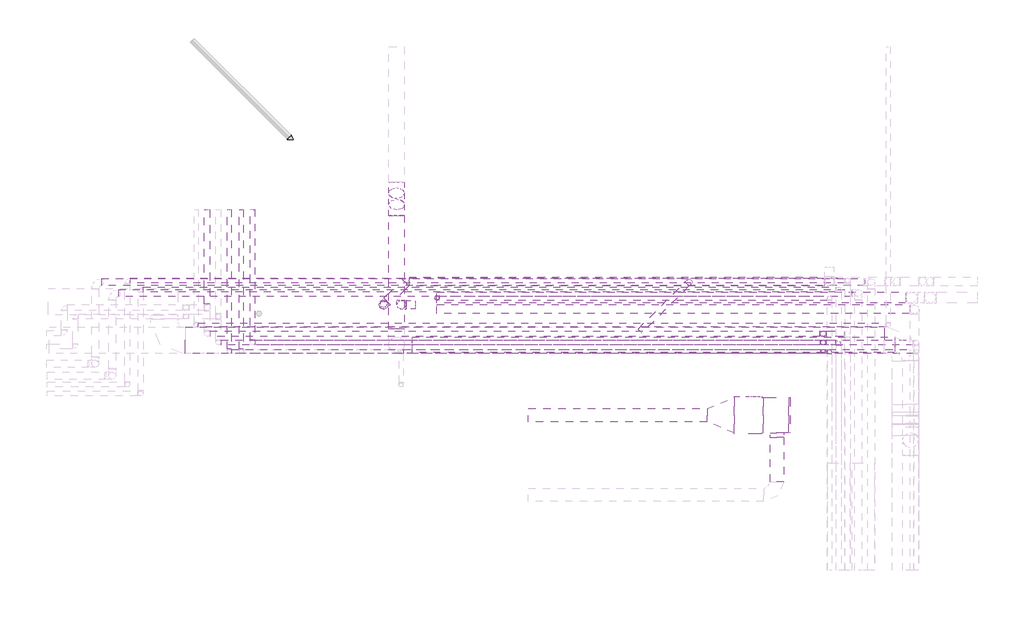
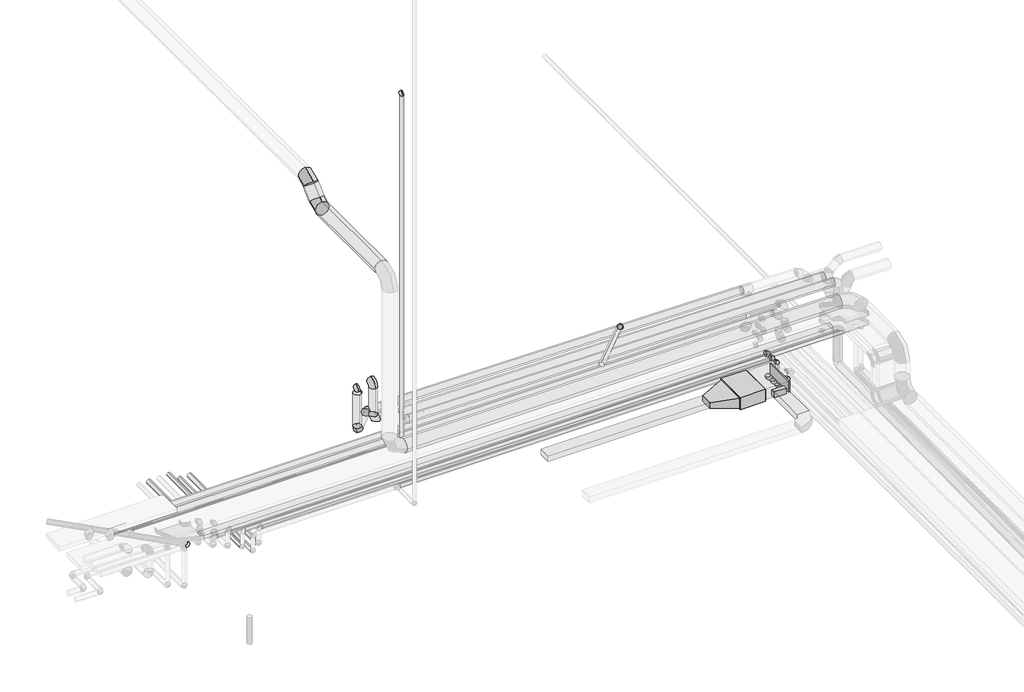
# One storey, part 11 of 12: 30 pipe segments, 17 pipe fittings, 6 duct segments, 5 duct fittings, 1 cable carrier segment, 1 proxy.
"""IFC4 building model written with IfcOpenShell, lengths in millimetres."""

from ifc_helpers import new_model, si_unit, point, frame, frame_2d, origin, place, context, project, spatial, polyline, circle_curve, trimmed, segment, composite_curve, outline, extrude, transform, mapped, element, save
from components import fc01_db58e849, duct_fitting_83e7c145, ext_22d5d12d, m_codo_redondo_ext_1_d_13bc036d, m_remate_rectangular_ext_55e19840, pipe_fitting_8e92d537, pipe_fitting_eb148d84, pipe_fitting_b37f0415, pipe_fitting_fa3f9604, pipe_fitting_87aeffad, pipe_fitting_e0fa64fe, pipe_fitting_c30e2c37, pipe_fitting_73698d31, pipe_fitting_ce1e9cd7, pipe_fitting_cd3c4448, pipe_fitting_4378a78c, pipe_fitting_4b8aae89, pipe_fitting_885b0a43, pipe_fitting_c73de51f, pipe_fitting_ae7840fb

model = new_model("IFC4")

# Units and contexts
model_context = context("Model", 3, world=origin())
ifc_project = project(units=[si_unit("LENGTHUNIT", "METRE", prefix="MILLI")], contexts=[model_context])

# Site, building, storey
site = spatial("IfcSite", under=ifc_project)
building = spatial("IfcBuilding", under=site)
storey = spatial("IfcBuildingStorey", under=building, Name="Nivell -01 PS1_PK", Elevation=1850.0)

# Proxy
placement = place(None, origin())
fc01_shape = fc01_db58e849(model_context)
element("IfcBuildingElementProxy", 1, Name="ARC_MDL_ME_UI_FC_ConducteSostre : FC01", ObjectType="ARC_MDL_ME_UI_FC_ConducteSostre : FC01", at=placement, inside=storey, context=model_context, shape_type="MappedRepresentation", body=[
    mapped(fc01_shape, transform((29819.1880978, 1603.247044, 5350.0), x_axis=(0.0, -1.0, 0.0), y_axis=(1.0, 0.0, 0.0), z_axis=(0.0, 0.0, 1.0))),
])

# Cable carrier segment
element("IfcCableCarrierSegment", 2, ObjectType="EL", at=placement, inside=storey, context=model_context, shape_type="SweptSolid", body=[
    extrude(outline(polyline([(32892.3537516, 3597.0810479), (32892.3543741, 2997.0810479), (17144.9827092, 2997.0647098), (17144.9820867, 3597.0647098), (32892.3537516, 3597.0810479)])), frame((0.0, 0.0, 5150.0), z_axis=(0.0, 0.0, 1.0), x_axis=(1.0, 0.0, 0.0)), (0.0, 0.0, 1.0), 100.0),
])

# Duct fittings
duct_fitting_shape = duct_fitting_83e7c145(model_context)
element("IfcDuctFitting", 3, ObjectType="M_Transición rectangular - Ángulo : EXT_45 graus", at=placement, inside=storey, context=model_context, shape_type="MappedRepresentation", body=[
    mapped(duct_fitting_shape, transform((29504.1880978, 1603.247044, 5507.5), x_axis=(-1.0, 0.0, 0.0), y_axis=(0.0, -1.0, 0.0), z_axis=(0.0, 0.0, 1.0))),
])
ext_shape = ext_22d5d12d(model_context)
element("IfcDuctFitting", 4, ObjectType="M_Toma de derivación rectangular : EXT", at=placement, inside=storey, context=model_context, shape_type="MappedRepresentation", body=[
    mapped(ext_shape, transform((30468.4719354, 1203.247044, 5507.5), x_axis=(0.0, -1.0, 0.0), y_axis=(-1.0, 0.0, 0.0), z_axis=(0.0, 0.0, -1.0))),
])
m_codo_redondo_ext_1_d_shape = m_codo_redondo_ext_1_d_13bc036d(model_context)
element("IfcDuctFitting", 5, ObjectType="M_Codo redondo : EXT_1 D", at=placement, inside=storey, context=model_context, shape_type="MappedRepresentation", body=[
    mapped(m_codo_redondo_ext_1_d_shape, transform((21901.1871418, 6708.4040569, 10810.0), x_axis=(0.0, -1.0, 0.0), y_axis=(0.0, 0.0, -1.0), z_axis=(1.0, 0.0, 0.0))),
])
element("IfcDuctFitting", 6, ObjectType="M_Codo redondo : EXT_1 D", at=placement, inside=storey, context=model_context, shape_type="MappedRepresentation", body=[
    mapped(m_codo_redondo_ext_1_d_shape, transform((21901.1871418, 6248.4040569, 10350.0), x_axis=(0.0, -0.7071067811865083, -0.7071067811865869), y_axis=(0.0, -0.7071067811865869, 0.7071067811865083), z_axis=(-1.0, 0.0, 0.0))),
])
m_remate_rectangular_ext_shape = m_remate_rectangular_ext_55e19840(model_context)
element("IfcDuctFitting", 7, ObjectType="M_Remate rectangular : EXT", at=placement, inside=storey, context=model_context, shape_type="MappedRepresentation", body=[
    mapped(m_remate_rectangular_ext_shape, transform((30741.1880978, 1603.247044, 5507.5), x_axis=(1.0, 0.0, 0.0), y_axis=(0.0, 1.0, 0.0), z_axis=(0.0, 0.0, 1.0))),
])

# Duct segments
element("IfcDuctSegment", 8, ObjectType="EXT_Acer Galvanitzat - Rígid", at=placement, inside=storey, context=model_context, shape_type="SweptSolid", body=[
    extrude(outline(composite_curve([segment(trimmed(circle_curve(frame_2d((3192.4040569, 5730.0)), 175.0), [point((3367.4040569, 5730.0))], [point((3192.4040569, 5555.0))], False, "CARTESIAN"), True, "CONTINUOUS"), segment(trimmed(circle_curve(frame_2d((3192.4040569, 5730.0)), 175.0), [point((3192.4040569, 5555.0))], [point((3017.4040569, 5730.0))], False, "CARTESIAN"), True, "CONTINUOUS"), segment(trimmed(circle_curve(frame_2d((3192.4040569, 5730.0)), 175.0), [point((3017.4040569, 5730.0))], [point((3192.4040569, 5905.0))], False, "CARTESIAN"), True, "CONTINUOUS"), segment(trimmed(circle_curve(frame_2d((3192.4040569, 5730.0)), 175.0), [point((3192.4040569, 5905.0))], [point((3367.4040569, 5730.0))], False, "CARTESIAN"), True, "CONTINUOUS")], self_intersect=False)), frame((22251.1871418, 0.0, 0.0), z_axis=(1.0, 0.0, 0.0), x_axis=(0.0, 1.0, 0.0)), (0.0, 0.0, 1.0), 10877.8174593),
])
element("IfcDuctSegment", 9, ObjectType="EXT_Acer Galvanitzat - Rígid", at=placement, inside=storey, context=model_context, shape_type="SweptSolid", body=[
    extrude(outline(composite_curve([segment(trimmed(circle_curve(frame_2d((0.0, -175.0)), 175.0), [point((-175.0, -175.0))], [point((0.0, 0.0))], False, "CARTESIAN"), True, "CONTINUOUS"), segment(trimmed(circle_curve(frame_2d((0.0, -175.0)), 175.0), [point((0.0, 0.0))], [point((175.0, -175.0))], False, "CARTESIAN"), True, "CONTINUOUS"), segment(trimmed(circle_curve(frame_2d((0.0, -175.0)), 175.0), [point((175.0, -175.0))], [point((0.0, -350.0))], False, "CARTESIAN"), True, "CONTINUOUS"), segment(trimmed(circle_curve(frame_2d((0.0, -175.0)), 175.0), [point((0.0, -350.0))], [point((-175.0, -175.0))], False, "CARTESIAN"), True, "CONTINUOUS")], self_intersect=False)), frame((21901.1871418, 6474.6603702, 10328.7689399), z_axis=(0.0, 0.707106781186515, 0.70710678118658), x_axis=(1.0, 0.0, 0.0)), (0.0, 0.0, 1.0), 360.588745),
])
element("IfcDuctSegment", 10, ObjectType="EXT_Acer Galvanitzat - Rígid", at=placement, inside=storey, context=model_context, shape_type="SweptSolid", body=[
    extrude(outline(composite_curve([segment(trimmed(circle_curve(frame_2d((10350.0, 21901.1871418)), 175.0), [point((10350.0, 22076.1871418))], [point((10525.0, 21901.1871418))], False, "CARTESIAN"), True, "CONTINUOUS"), segment(trimmed(circle_curve(frame_2d((10350.0, 21901.1871418)), 175.0), [point((10525.0, 21901.1871418))], [point((10350.0, 21726.1871418))], False, "CARTESIAN"), True, "CONTINUOUS"), segment(trimmed(circle_curve(frame_2d((10350.0, 21901.1871418)), 175.0), [point((10350.0, 21726.1871418))], [point((10175.0, 21901.1871418))], False, "CARTESIAN"), True, "CONTINUOUS"), segment(trimmed(circle_curve(frame_2d((10350.0, 21901.1871418)), 175.0), [point((10175.0, 21901.1871418))], [point((10350.0, 22076.1871418))], False, "CARTESIAN"), True, "CONTINUOUS")], self_intersect=False)), frame((0.0, 3542.4040569, 0.0), z_axis=(0.0, 1.0, 0.0), x_axis=(0.0, 0.0, 1.0)), (0.0, 0.0, 1.0), 2561.0252532),
])
element("IfcDuctSegment", 11, ObjectType="EXT_Planxa galvanitzada", at=placement, inside=storey, context=model_context, shape_type="SweptSolid", body=[
    extrude(outline(polyline([(28900.6347072, 1753.247044), (28900.6347072, 1453.247044), (24868.4719354, 1453.247044), (24868.4719354, 1753.247044), (28900.6347072, 1753.247044)])), frame((0.0, 0.0, 5432.5), z_axis=(0.0, 0.0, 1.0), x_axis=(1.0, 0.0, 0.0)), (0.0, 0.0, 1.0), 150.0),
])
element("IfcDuctSegment", 12, ObjectType="EXT_Planxa galvanitzada", at=placement, inside=storey, context=model_context, shape_type="SweptSolid", body=[
    extrude(outline(polyline([(30161.1880978, 1203.247044), (30161.1880978, 2003.247044), (30741.1880978, 2003.247044), (30741.1880978, 1203.247044), (30161.1880978, 1203.247044)])), frame((0.0, 0.0, 5370.0), z_axis=(0.0, 0.0, 1.0), x_axis=(1.0, 0.0, 0.0)), (0.0, 0.0, 1.0), 275.0),
])
element("IfcDuctSegment", 13, ObjectType="EXT_Planxa galvanitzada", at=placement, inside=storey, context=model_context, shape_type="SweptSolid", body=[
    extrude(outline(polyline([(30318.4719354, 1101.647044), (30618.4719354, 1101.647044), (30618.4719354, 105.7761719), (30318.4719354, 105.7761719), (30318.4719354, 1101.647044)])), frame((0.0, 0.0, 5432.5), z_axis=(0.0, 0.0, 1.0), x_axis=(1.0, 0.0, 0.0)), (0.0, 0.0, 1.0), 150.0),
])

# Pipe fittings
pipe_fitting_shape = pipe_fitting_8e92d537(model_context)
element("IfcPipeFitting", 14, ObjectType="M_Codo - Genérico : Estándar", at=placement, inside=storey, context=model_context, shape_type="MappedRepresentation", body=[
    mapped(pipe_fitting_shape, transform((28494.7143591, 4609.0124523, 5863.6031921), x_axis=(0.0, 0.0, 1.0), y_axis=(-0.7072825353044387, -0.7069309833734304, 0.0), z_axis=(0.7069309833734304, -0.7072825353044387, 0.0))),
])
pipe_fitting_2_shape = pipe_fitting_eb148d84(model_context)
element("IfcPipeFitting", 15, ObjectType="M_Codo - Genérico : Estándar", at=placement, inside=storey, context=model_context, shape_type="MappedRepresentation", body=[
    mapped(pipe_fitting_2_shape, transform((22012.4640122, 4093.1380917, 5977.8978029), x_axis=(-0.9999500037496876, 0.0, 0.009999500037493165), y_axis=(0.009999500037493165, 0.0, 0.9999500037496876), z_axis=(0.0, 1.0, 0.0))),
])
pipe_fitting_3_shape = pipe_fitting_b37f0415(model_context)
element("IfcPipeFitting", 16, ObjectType="M_Codo - Genérico : Estándar", at=placement, inside=storey, context=model_context, shape_type="MappedRepresentation", body=[
    mapped(pipe_fitting_3_shape, transform((22012.4640122, 4093.1380917, 6927.8978029), x_axis=(0.0, 0.0, 1.0), y_axis=(0.0, 1.0, 0.0), z_axis=(-1.0, 0.0, 0.0))),
])
pipe_fitting_4_shape = pipe_fitting_fa3f9604(model_context)
element("IfcPipeFitting", 17, ObjectType="M_Codo - Genérico : Estándar", at=placement, inside=storey, context=model_context, shape_type="MappedRepresentation", body=[
    mapped(pipe_fitting_4_shape, transform((31511.7618049, 3241.4395612, 4795.0), x_axis=(0.0, 0.0, 1.0), y_axis=(-1.0, 0.0, 0.0), z_axis=(0.0, -1.0, 0.0))),
])
pipe_fitting_5_shape = pipe_fitting_87aeffad(model_context)
element("IfcPipeFitting", 18, ObjectType="M_Codo - Genérico : Estándar", at=placement, inside=storey, context=model_context, shape_type="MappedRepresentation", body=[
    mapped(pipe_fitting_5_shape, transform((22814.9203808, 4244.3728734, 14209.2), x_axis=(0.0, 0.0, 1.0), y_axis=(0.0, 1.0, 0.0), z_axis=(-1.0, 0.0, 0.0))),
])
element("IfcPipeFitting", 19, ObjectType="M_Codo - Genérico : Estándar", at=placement, inside=storey, context=model_context, shape_type="MappedRepresentation", body=[
    mapped(pipe_fitting_5_shape, transform((31511.7618049, 3041.4395612, 4805.0), x_axis=(0.0, 0.0, 1.0), y_axis=(-1.0, 0.0, 0.0), z_axis=(0.0, -1.0, 0.0))),
])
pipe_fitting_6_shape = pipe_fitting_e0fa64fe(model_context)
element("IfcPipeFitting", 20, ObjectType="M_Codo - Genérico : Estándar", at=placement, inside=storey, context=model_context, shape_type="MappedRepresentation", body=[
    mapped(pipe_fitting_6_shape, transform((31511.7618049, 3441.4395612, 4787.5), x_axis=(0.0, 0.0, 1.0), y_axis=(-1.0, 0.0, 0.0), z_axis=(0.0, -1.0, 0.0))),
])
element("IfcPipeFitting", 21, ObjectType="M_Codo - Genérico : Estándar", at=placement, inside=storey, context=model_context, shape_type="MappedRepresentation", body=[
    mapped(pipe_fitting_6_shape, transform((21612.4226846, 4093.1794174, 6927.8978029), x_axis=(0.0, 0.0, 1.0), y_axis=(0.0, 1.0, 0.0), z_axis=(-1.0, 0.0, 0.0))),
])
pipe_fitting_7_shape = pipe_fitting_c30e2c37(model_context)
element("IfcPipeFitting", 22, ObjectType="M_Codo - Genérico : Estándar", at=placement, inside=storey, context=model_context, shape_type="MappedRepresentation", body=[
    mapped(pipe_fitting_7_shape, transform((19509.4431427, 7847.2061584, 1253.3089467), x_axis=(0.0, 0.9999500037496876, 0.009999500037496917), y_axis=(-0.9999914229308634, -4.141539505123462e-05, 0.0041415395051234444), z_axis=(0.004141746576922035, -0.009999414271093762, 0.9999414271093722))),
])
pipe_fitting_8_shape = pipe_fitting_73698d31(model_context)
element("IfcPipeFitting", 23, ObjectType="M_Transición - Genérica : Estándar", at=placement, inside=storey, context=model_context, shape_type="MappedRepresentation", body=[
    mapped(pipe_fitting_8_shape, transform((21612.4226846, 4093.1794174, 6804.8665529), x_axis=(0.0, 0.0, 1.0), y_axis=(-0.7071244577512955, 0.7070891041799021, 0.0), z_axis=(-0.7070891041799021, -0.7071244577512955, 0.0))),
])
pipe_fitting_9_shape = pipe_fitting_ce1e9cd7(model_context)
element("IfcPipeFitting", 24, ObjectType="M_Codo - Genérico : Estándar", at=placement, inside=storey, context=model_context, shape_type="MappedRepresentation", body=[
    mapped(pipe_fitting_9_shape, transform((31660.0107148, 3041.4395612, 4134.476125), x_axis=(0.0, 0.9999999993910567, -3.489823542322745e-05), y_axis=(-0.9999500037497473, -3.4896490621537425e-07, -0.009999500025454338), z_axis=(-0.009999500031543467, 3.489649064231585e-05, 0.9999500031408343))),
])
pipe_fitting_10_shape = pipe_fitting_cd3c4448(model_context)
element("IfcPipeFitting", 25, ObjectType="M_Codo - Genérico : Estándar", at=placement, inside=storey, context=model_context, shape_type="MappedRepresentation", body=[
    mapped(pipe_fitting_10_shape, transform((31860.0107148, 3241.4395612, 4124.370625), x_axis=(0.0, 0.999999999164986, -4.086597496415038e-05), y_axis=(-0.9999500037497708, -4.0863931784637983e-07, -0.009999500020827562), z_axis=(-0.009999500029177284, 4.086393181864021e-05, 0.9999500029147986))),
])
pipe_fitting_11_shape = pipe_fitting_4378a78c(model_context)
element("IfcPipeFitting", 26, ObjectType="M_Codo - Genérico : Estándar", at=placement, inside=storey, context=model_context, shape_type="MappedRepresentation", body=[
    mapped(pipe_fitting_11_shape, transform((31511.7618049, 3041.4395612, 4132.9936359), x_axis=(0.0, 0.0, -1.0), y_axis=(1.0, 0.0, 0.0), z_axis=(0.0, -1.0, 0.0))),
])
pipe_fitting_12_shape = pipe_fitting_4b8aae89(model_context)
element("IfcPipeFitting", 27, ObjectType="M_Codo - Genérico : Estándar", at=placement, inside=storey, context=model_context, shape_type="MappedRepresentation", body=[
    mapped(pipe_fitting_12_shape, transform((31511.7618049, 3241.4395612, 4120.8881359), x_axis=(0.0, 0.0, -1.0), y_axis=(1.0, 0.0, 0.0), z_axis=(0.0, -1.0, 0.0))),
])
pipe_fitting_13_shape = pipe_fitting_885b0a43(model_context)
element("IfcPipeFitting", 28, ObjectType="M_Codo - Genérico : Estándar", at=placement, inside=storey, context=model_context, shape_type="MappedRepresentation", body=[
    mapped(pipe_fitting_13_shape, transform((31511.7618049, 3441.4395612, 4111.3031359), x_axis=(0.0, 0.0, -1.0), y_axis=(1.0, 0.0, 0.0), z_axis=(0.0, -1.0, 0.0))),
])
pipe_fitting_14_shape = pipe_fitting_c73de51f(model_context)
element("IfcPipeFitting", 29, ObjectType="M_Codo - Genérico : Estándar", at=placement, inside=storey, context=model_context, shape_type="MappedRepresentation", body=[
    mapped(pipe_fitting_14_shape, transform((22139.5604094, 4620.2393045, 5803.1827446), x_axis=(-0.9999500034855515, 2.3110004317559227e-05, 0.009999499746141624), y_axis=(1.8301818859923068e-05, -0.9999914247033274, 0.004141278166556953), z_axis=(0.009999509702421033, 0.004141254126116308, 0.9999414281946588))),
])
pipe_fitting_15_shape = pipe_fitting_ae7840fb(model_context)
element("IfcPipeFitting", 30, ObjectType="M_Codo - Genérico : Estándar", at=placement, inside=storey, context=model_context, shape_type="MappedRepresentation", body=[
    mapped(pipe_fitting_15_shape, transform((21612.4226846, 4093.1794174, 5810.6370713), x_axis=(0.0, 0.0, -1.0), y_axis=(0.7071708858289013, 0.7070426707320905, 0.0), z_axis=(0.7070426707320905, -0.7071708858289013, 0.0))),
])

# Pipe segments
element("IfcPipeSegment", 31, ObjectType="PP_FN", at=placement, inside=storey, context=model_context, shape_type="SweptSolid", body=[
    extrude(outline(composite_curve([segment(trimmed(circle_curve(frame_2d((3641.4395612, 5005.0)), 45.0), [point((3596.4395612, 5005.0))], [point((3641.4395612, 5050.0))], False, "CARTESIAN"), True, "CONTINUOUS"), segment(trimmed(circle_curve(frame_2d((3641.4395612, 5005.0)), 45.0), [point((3641.4395612, 5050.0))], [point((3686.4395612, 5005.0))], False, "CARTESIAN"), True, "CONTINUOUS"), segment(trimmed(circle_curve(frame_2d((3641.4395612, 5005.0)), 45.0), [point((3686.4395612, 5005.0))], [point((3641.4395612, 4960.0))], False, "CARTESIAN"), True, "CONTINUOUS"), segment(trimmed(circle_curve(frame_2d((3641.4395612, 5005.0)), 45.0), [point((3641.4395612, 4960.0))], [point((3596.4395612, 5005.0))], False, "CARTESIAN"), True, "CONTINUOUS")], self_intersect=False)), frame((17436.8820421, 0.0, 0.0), z_axis=(1.0, 0.0, 0.0), x_axis=(0.0, 1.0, 0.0)), (0.0, 0.0, 1.0), 15490.3019553),
])
element("IfcPipeSegment", 32, ObjectType="PP_FN", at=placement, inside=storey, context=model_context, shape_type="SweptSolid", body=[
    extrude(outline(composite_curve([segment(trimmed(circle_curve(frame_2d((3441.4395612, 4787.5)), 62.5), [point((3378.9395612, 4787.5))], [point((3441.4395612, 4850.0))], False, "CARTESIAN"), True, "CONTINUOUS"), segment(trimmed(circle_curve(frame_2d((3441.4395612, 4787.5)), 62.5), [point((3441.4395612, 4850.0))], [point((3503.9395612, 4787.5))], False, "CARTESIAN"), True, "CONTINUOUS"), segment(trimmed(circle_curve(frame_2d((3441.4395612, 4787.5)), 62.5), [point((3503.9395612, 4787.5))], [point((3441.4395612, 4725.0))], False, "CARTESIAN"), True, "CONTINUOUS"), segment(trimmed(circle_curve(frame_2d((3441.4395612, 4787.5)), 62.5), [point((3441.4395612, 4725.0))], [point((3378.9395612, 4787.5))], False, "CARTESIAN"), True, "CONTINUOUS")], self_intersect=False)), frame((17708.086787, 0.0, 0.0), z_axis=(1.0, 0.0, 0.0), x_axis=(0.0, 1.0, 0.0)), (0.0, 0.0, 1.0), 13732.2375179),
])
element("IfcPipeSegment", 33, ObjectType="PP_FN", at=placement, inside=storey, context=model_context, shape_type="SweptSolid", body=[
    extrude(outline(composite_curve([segment(trimmed(circle_curve(frame_2d((3241.4395612, 4995.0)), 55.0), [point((3186.4395612, 4995.0))], [point((3241.4395612, 5050.0))], False, "CARTESIAN"), True, "CONTINUOUS"), segment(trimmed(circle_curve(frame_2d((3241.4395612, 4995.0)), 55.0), [point((3241.4395612, 5050.0))], [point((3296.4395612, 4995.0))], False, "CARTESIAN"), True, "CONTINUOUS"), segment(trimmed(circle_curve(frame_2d((3241.4395612, 4995.0)), 55.0), [point((3296.4395612, 4995.0))], [point((3241.4395612, 4940.0))], False, "CARTESIAN"), True, "CONTINUOUS"), segment(trimmed(circle_curve(frame_2d((3241.4395612, 4995.0)), 55.0), [point((3241.4395612, 4940.0))], [point((3186.4395612, 4995.0))], False, "CARTESIAN"), True, "CONTINUOUS")], self_intersect=False)), frame((17949.586787, 0.0, 0.0), z_axis=(1.0, 0.0, 0.0), x_axis=(0.0, 1.0, 0.0)), (0.0, 0.0, 1.0), 15595.7043708),
])
element("IfcPipeSegment", 34, ObjectType="PP_FN", at=placement, inside=storey, context=model_context, shape_type="SweptSolid", body=[
    extrude(outline(composite_curve([segment(trimmed(circle_curve(frame_2d((4555.0, 18136.649287)), 45.0), [point((4555.0, 18181.649287))], [point((4600.0, 18136.649287))], False, "CARTESIAN"), True, "CONTINUOUS"), segment(trimmed(circle_curve(frame_2d((4555.0, 18136.649287)), 45.0), [point((4600.0, 18136.649287))], [point((4555.0, 18091.649287))], False, "CARTESIAN"), True, "CONTINUOUS"), segment(trimmed(circle_curve(frame_2d((4555.0, 18136.649287)), 45.0), [point((4555.0, 18091.649287))], [point((4510.0, 18136.649287))], False, "CARTESIAN"), True, "CONTINUOUS"), segment(trimmed(circle_curve(frame_2d((4555.0, 18136.649287)), 45.0), [point((4510.0, 18136.649287))], [point((4555.0, 18181.649287))], False, "CARTESIAN"), True, "CONTINUOUS")], self_intersect=False)), frame((0.0, 3093.8270612, 0.0), z_axis=(0.0, 1.0, 0.0), x_axis=(0.0, 0.0, 1.0)), (0.0, 0.0, 1.0), 3147.6125),
])
element("IfcPipeSegment", 35, ObjectType="PP_FN", at=placement, inside=storey, context=model_context, shape_type="SweptSolid", body=[
    extrude(outline(composite_curve([segment(trimmed(circle_curve(frame_2d((31511.7618049, 3441.4395612)), 62.5), [point((31449.2618049, 3441.4395612))], [point((31511.7618049, 3503.9395612))], False, "CARTESIAN"), True, "CONTINUOUS"), segment(trimmed(circle_curve(frame_2d((31511.7618049, 3441.4395612)), 62.5), [point((31511.7618049, 3503.9395612))], [point((31574.2618049, 3441.4395612))], False, "CARTESIAN"), True, "CONTINUOUS"), segment(trimmed(circle_curve(frame_2d((31511.7618049, 3441.4395612)), 62.5), [point((31574.2618049, 3441.4395612))], [point((31511.7618049, 3378.9395612))], False, "CARTESIAN"), True, "CONTINUOUS"), segment(trimmed(circle_curve(frame_2d((31511.7618049, 3441.4395612)), 62.5), [point((31511.7618049, 3378.9395612))], [point((31449.2618049, 3441.4395612))], False, "CARTESIAN"), True, "CONTINUOUS")], self_intersect=False)), frame((0.0, 0.0, 4183.4585827), z_axis=(0.0, 0.0, 1.0), x_axis=(1.0, 0.0, 0.0)), (0.0, 0.0, 1.0), 532.6039173),
])
element("IfcPipeSegment", 36, ObjectType="PP_FN", at=placement, inside=storey, context=model_context, shape_type="SweptSolid", body=[
    extrude(outline(composite_curve([segment(trimmed(circle_curve(frame_2d((31511.7618049, 3241.4395612)), 55.0), [point((31566.7618049, 3241.4395612))], [point((31511.7618049, 3186.4395612))], False, "CARTESIAN"), True, "CONTINUOUS"), segment(trimmed(circle_curve(frame_2d((31511.7618049, 3241.4395612)), 55.0), [point((31511.7618049, 3186.4395612))], [point((31456.7618049, 3241.4395612))], False, "CARTESIAN"), True, "CONTINUOUS"), segment(trimmed(circle_curve(frame_2d((31511.7618049, 3241.4395612)), 55.0), [point((31456.7618049, 3241.4395612))], [point((31511.7618049, 3296.4395612))], False, "CARTESIAN"), True, "CONTINUOUS"), segment(trimmed(circle_curve(frame_2d((31511.7618049, 3241.4395612)), 55.0), [point((31511.7618049, 3296.4395612))], [point((31566.7618049, 3241.4395612))], False, "CARTESIAN"), True, "CONTINUOUS")], self_intersect=False)), frame((0.0, 0.0, 4184.4581577), z_axis=(0.0, 0.0, 1.0), x_axis=(1.0, 0.0, 0.0)), (0.0, 0.0, 1.0), 547.6043423),
])
element("IfcPipeSegment", 37, ObjectType="PP_FN", at=placement, inside=storey, context=model_context, shape_type="SweptSolid", body=[
    extrude(outline(composite_curve([segment(trimmed(circle_curve(frame_2d((31511.7618049, 3041.4395612)), 45.0), [point((31556.7618049, 3041.4395612))], [point((31511.7618049, 2996.4395612))], False, "CARTESIAN"), True, "CONTINUOUS"), segment(trimmed(circle_curve(frame_2d((31511.7618049, 3041.4395612)), 45.0), [point((31511.7618049, 2996.4395612))], [point((31466.7618049, 3041.4395612))], False, "CARTESIAN"), True, "CONTINUOUS"), segment(trimmed(circle_curve(frame_2d((31511.7618049, 3041.4395612)), 45.0), [point((31466.7618049, 3041.4395612))], [point((31511.7618049, 3086.4395612))], False, "CARTESIAN"), True, "CONTINUOUS"), segment(trimmed(circle_curve(frame_2d((31511.7618049, 3041.4395612)), 45.0), [point((31511.7618049, 3086.4395612))], [point((31556.7618049, 3041.4395612))], False, "CARTESIAN"), True, "CONTINUOUS")], self_intersect=False)), frame((0.0, 0.0, 4185.9076302), z_axis=(0.0, 0.0, 1.0), x_axis=(1.0, 0.0, 0.0)), (0.0, 0.0, 1.0), 566.7048698),
])
element("IfcPipeSegment", 38, ObjectType="PP_FN", at=placement, inside=storey, context=model_context, shape_type="SweptSolid", body=[
    extrude(outline(composite_curve([segment(trimmed(circle_curve(frame_2d((3041.4395612, 5005.0)), 45.0), [point((3086.4395612, 5005.0))], [point((3041.4395612, 4960.0))], False, "CARTESIAN"), True, "CONTINUOUS"), segment(trimmed(circle_curve(frame_2d((3041.4395612, 5005.0)), 45.0), [point((3041.4395612, 4960.0))], [point((2996.4395612, 5005.0))], False, "CARTESIAN"), True, "CONTINUOUS"), segment(trimmed(circle_curve(frame_2d((3041.4395612, 5005.0)), 45.0), [point((2996.4395612, 5005.0))], [point((3041.4395612, 5050.0))], False, "CARTESIAN"), True, "CONTINUOUS"), segment(trimmed(circle_curve(frame_2d((3041.4395612, 5005.0)), 45.0), [point((3041.4395612, 5050.0))], [point((3086.4395612, 5005.0))], False, "CARTESIAN"), True, "CONTINUOUS")], self_intersect=False)), frame((18189.036787, 0.0, 0.0), z_axis=(1.0, 0.0, 0.0), x_axis=(0.0, 1.0, 0.0)), (0.0, 0.0, 1.0), 15366.8043708),
])
element("IfcPipeSegment", 39, ObjectType="PPR_CLI_Aquatherm Blue Pipe", at=placement, inside=storey, context=model_context, shape_type="SweptSolid", body=[
    extrude(outline(composite_curve([segment(trimmed(circle_curve(frame_2d((0.0, -80.0)), 80.0), [point((-80.0, -80.0))], [point((0.0, 0.0))], False, "CARTESIAN"), True, "CONTINUOUS"), segment(trimmed(circle_curve(frame_2d((0.0, -80.0)), 80.0), [point((0.0, 0.0))], [point((80.0, -80.0))], False, "CARTESIAN"), True, "CONTINUOUS"), segment(trimmed(circle_curve(frame_2d((0.0, -80.0)), 80.0), [point((80.0, -80.0))], [point((0.0, -160.0))], False, "CARTESIAN"), True, "CONTINUOUS"), segment(trimmed(circle_curve(frame_2d((0.0, -80.0)), 80.0), [point((0.0, -160.0))], [point((-80.0, -80.0))], False, "CARTESIAN"), True, "CONTINUOUS")], self_intersect=False)), frame((15262.0704267, 4608.7635588, 4970.0000025), z_axis=(0.9999999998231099, 1.8809049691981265e-05, 0.0), x_axis=(1.8809049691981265e-05, -0.9999999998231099, 0.0)), (0.0, 0.0, 1.0), 17189.127471),
])
element("IfcPipeSegment", 40, ObjectType="PPR_CLI_Aquatherm Blue Pipe", at=placement, inside=storey, context=model_context, shape_type="SweptSolid", body=[
    extrude(outline(composite_curve([segment(trimmed(circle_curve(frame_2d((0.0, -80.0)), 80.0), [point((-80.0, -80.0))], [point((0.0, 0.0))], False, "CARTESIAN"), True, "CONTINUOUS"), segment(trimmed(circle_curve(frame_2d((0.0, -80.0)), 80.0), [point((0.0, 0.0))], [point((79.9999999, -80.0))], False, "CARTESIAN"), True, "CONTINUOUS"), segment(trimmed(circle_curve(frame_2d((0.0, -80.0)), 80.0), [point((79.9999999, -80.0))], [point((0.0, -160.0))], False, "CARTESIAN"), True, "CONTINUOUS"), segment(trimmed(circle_curve(frame_2d((0.0, -80.0)), 80.0), [point((0.0, -160.0))], [point((-80.0, -80.0))], False, "CARTESIAN"), True, "CONTINUOUS")], self_intersect=False)), frame((15642.0783973, 4358.8357616, 4970.0), z_axis=(0.9999999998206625, 1.8938722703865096e-05, 0.0), x_axis=(1.8938722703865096e-05, -0.9999999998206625, 0.0)), (0.0, 0.0, 1.0), 16519.1822458),
])
element("IfcPipeSegment", 41, ObjectType="PPR_CLI_Aquatherm Blue Pipe", at=placement, inside=storey, context=model_context, shape_type="SweptSolid", body=[
    extrude(outline(composite_curve([segment(trimmed(circle_curve(frame_2d((0.0, -55.0)), 55.0), [point((-55.0, -55.0))], [point((0.0, 0.0))], False, "CARTESIAN"), True, "CONTINUOUS"), segment(trimmed(circle_curve(frame_2d((0.0, -55.0)), 55.0), [point((0.0, 0.0))], [point((55.0, -55.0))], False, "CARTESIAN"), True, "CONTINUOUS"), segment(trimmed(circle_curve(frame_2d((0.0, -55.0)), 55.0), [point((55.0, -55.0))], [point((0.0, -110.0))], False, "CARTESIAN"), True, "CONTINUOUS"), segment(trimmed(circle_curve(frame_2d((0.0, -55.0)), 55.0), [point((0.0, -110.0))], [point((-55.0, -55.0))], False, "CARTESIAN"), True, "CONTINUOUS")], self_intersect=False)), frame((15899.9948805, 4639.2237078, 4740.0), z_axis=(0.9999999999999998, 2.1256987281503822e-08, 0.0), x_axis=(2.1256987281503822e-08, -0.9999999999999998, 0.0)), (0.0, 0.0, 1.0), 16100.0760732),
])
element("IfcPipeSegment", 42, ObjectType="PPR_CLI_Aquatherm Blue Pipe", at=placement, inside=storey, context=model_context, shape_type="SweptSolid", body=[
    extrude(outline(composite_curve([segment(trimmed(circle_curve(frame_2d((4439.2153677, 4795.0)), 55.0), [point((4384.2153677, 4795.0))], [point((4439.2153677, 4850.0))], False, "CARTESIAN"), True, "CONTINUOUS"), segment(trimmed(circle_curve(frame_2d((4439.2153677, 4795.0)), 55.0), [point((4439.2153677, 4850.0))], [point((4494.2153677, 4795.0))], False, "CARTESIAN"), True, "CONTINUOUS"), segment(trimmed(circle_curve(frame_2d((4439.2153677, 4795.0)), 55.0), [point((4494.2153677, 4795.0))], [point((4439.2153677, 4740.0))], False, "CARTESIAN"), True, "CONTINUOUS"), segment(trimmed(circle_curve(frame_2d((4439.2153677, 4795.0)), 55.0), [point((4439.2153677, 4740.0))], [point((4384.2153677, 4795.0))], False, "CARTESIAN"), True, "CONTINUOUS")], self_intersect=False)), frame((16200.0033827, 0.0, 0.0), z_axis=(1.0, 0.0, 0.0), x_axis=(0.0, 1.0, 0.0)), (0.0, 0.0, 1.0), 15600.0588533),
])
element("IfcPipeSegment", 43, ObjectType="PVC_Baixant", at=placement, inside=storey, context=model_context, shape_type="SweptSolid", body=[
    extrude(outline(composite_curve([segment(trimmed(circle_curve(frame_2d((22012.4640122, 4093.1380917)), 100.0), [point((21912.4640122, 4093.1380917))], [point((22012.4640122, 4193.1380917))], False, "CARTESIAN"), True, "CONTINUOUS"), segment(trimmed(circle_curve(frame_2d((22012.4640122, 4093.1380917)), 100.0), [point((22012.4640122, 4193.1380917))], [point((22112.4640122, 4093.1380917))], False, "CARTESIAN"), True, "CONTINUOUS"), segment(trimmed(circle_curve(frame_2d((22012.4640122, 4093.1380917)), 100.0), [point((22112.4640122, 4093.1380917))], [point((22012.4640122, 3993.1380917))], False, "CARTESIAN"), True, "CONTINUOUS"), segment(trimmed(circle_curve(frame_2d((22012.4640122, 4093.1380917)), 100.0), [point((22012.4640122, 3993.1380917))], [point((21912.4640122, 4093.1380917))], False, "CARTESIAN"), True, "CONTINUOUS")], self_intersect=False)), frame((0.0, 0.0, 6086.3454047), z_axis=(0.0, 0.0, 1.0), x_axis=(1.0, 0.0, 0.0)), (0.0, 0.0, 1.0), 732.0148983),
])
element("IfcPipeSegment", 44, ObjectType="AN_CI", at=placement, inside=storey, context=model_context, shape_type="SweptSolid", body=[
    extrude(outline(composite_curve([segment(trimmed(circle_curve(frame_2d((22814.9203808, 4244.3728734)), 50.8), [point((22865.7203808, 4244.3728734))], [point((22814.9203808, 4193.5728734))], False, "CARTESIAN"), True, "CONTINUOUS"), segment(trimmed(circle_curve(frame_2d((22814.9203808, 4244.3728734)), 50.8), [point((22814.9203808, 4193.5728734))], [point((22764.1203808, 4244.3728734))], False, "CARTESIAN"), True, "CONTINUOUS"), segment(trimmed(circle_curve(frame_2d((22814.9203808, 4244.3728734)), 50.8), [point((22764.1203808, 4244.3728734))], [point((22814.9203808, 4295.1728734))], False, "CARTESIAN"), True, "CONTINUOUS"), segment(trimmed(circle_curve(frame_2d((22814.9203808, 4244.3728734)), 50.8), [point((22814.9203808, 4295.1728734))], [point((22865.7203808, 4244.3728734))], False, "CARTESIAN"), True, "CONTINUOUS")], self_intersect=False)), frame((0.0, 0.0, 4896.8125), z_axis=(0.0, 0.0, 1.0), x_axis=(1.0, 0.0, 0.0)), (0.0, 0.0, 1.0), 9260.0),
])
element("IfcPipeSegment", 45, ObjectType="AN_CI", at=placement, inside=storey, context=model_context, shape_type="SweptSolid", body=[
    extrude(outline(composite_curve([segment(trimmed(circle_curve(frame_2d((0.0, -50.8)), 50.8), [point((-50.8, -50.8))], [point((0.0, 0.0))], False, "CARTESIAN"), True, "CONTINUOUS"), segment(trimmed(circle_curve(frame_2d((0.0, -50.8)), 50.8), [point((0.0, 0.0))], [point((50.8, -50.8))], False, "CARTESIAN"), True, "CONTINUOUS"), segment(trimmed(circle_curve(frame_2d((0.0, -50.8)), 50.8), [point((50.8, -50.8))], [point((0.0, -101.6000001))], False, "CARTESIAN"), True, "CONTINUOUS"), segment(trimmed(circle_curve(frame_2d((0.0, -50.8)), 50.8), [point((0.0, -101.6000001))], [point((-50.8, -50.8))], False, "CARTESIAN"), True, "CONTINUOUS")], self_intersect=False)), frame((22867.3140652, 4244.3728734, 4747.8792828), z_axis=(0.9999999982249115, 0.0, 5.958336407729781e-05), x_axis=(0.0, -1.0, 0.0)), (0.0, 0.0, 1.0), 8739.3060783),
])
element("IfcPipeSegment", 46, ObjectType="PP_FN", at=placement, inside=storey, context=model_context, shape_type="SweptSolid", body=[
    extrude(outline(composite_curve([segment(trimmed(circle_curve(frame_2d((0.0, 45.0)), 45.0), [point((0.0, 0.0))], [point((-45.0, 45.0))], False, "CARTESIAN"), True, "CONTINUOUS"), segment(trimmed(circle_curve(frame_2d((0.0, 45.0)), 45.0), [point((-45.0, 45.0))], [point((0.0, 90.0))], False, "CARTESIAN"), True, "CONTINUOUS"), segment(trimmed(circle_curve(frame_2d((0.0, 45.0)), 45.0), [point((0.0, 90.0))], [point((45.0, 45.0))], False, "CARTESIAN"), True, "CONTINUOUS"), segment(trimmed(circle_curve(frame_2d((0.0, 45.0)), 45.0), [point((45.0, 45.0))], [point((0.0, 0.0))], False, "CARTESIAN"), True, "CONTINUOUS")], self_intersect=False)), frame((31564.6731537, 2996.4395612, 4133.5227494), z_axis=(0.9999500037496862, 0.0, 0.009999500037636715), x_axis=(0.009999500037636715, 0.0, -0.9999500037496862)), (0.0, 0.0, 1.0), 42.9548461),
])
element("IfcPipeSegment", 47, ObjectType="PP_FN", at=placement, inside=storey, context=model_context, shape_type="SweptSolid", body=[
    extrude(outline(composite_curve([segment(trimmed(circle_curve(frame_2d((0.0, 55.0)), 55.0), [point((0.0, 0.0))], [point((-55.0, 55.0))], False, "CARTESIAN"), True, "CONTINUOUS"), segment(trimmed(circle_curve(frame_2d((0.0, 55.0)), 55.0), [point((-55.0, 55.0))], [point((0.0, 110.0))], False, "CARTESIAN"), True, "CONTINUOUS"), segment(trimmed(circle_curve(frame_2d((0.0, 55.0)), 55.0), [point((0.0, 110.0))], [point((55.0, 55.0))], False, "CARTESIAN"), True, "CONTINUOUS"), segment(trimmed(circle_curve(frame_2d((0.0, 55.0)), 55.0), [point((55.0, 55.0))], [point((0.0, 0.0))], False, "CARTESIAN"), True, "CONTINUOUS")], self_intersect=False)), frame((31575.3286485, 3186.4395612, 4121.5238043), z_axis=(0.9999500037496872, 0.0, 0.009999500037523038), x_axis=(0.009999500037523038, 0.0, -0.9999500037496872)), (0.0, 0.0, 1.0), 221.7588258),
])
element("IfcPipeSegment", 48, ObjectType="PP_FN", at=placement, inside=storey, context=model_context, shape_type="SweptSolid", body=[
    extrude(outline(composite_curve([segment(trimmed(circle_curve(frame_2d((0.0, 62.5)), 62.5), [point((0.0, 0.0))], [point((-62.5, 62.5))], False, "CARTESIAN"), True, "CONTINUOUS"), segment(trimmed(circle_curve(frame_2d((0.0, 62.5)), 62.5), [point((-62.5, 62.5))], [point((0.0, 125.0))], False, "CARTESIAN"), True, "CONTINUOUS"), segment(trimmed(circle_curve(frame_2d((0.0, 62.5)), 62.5), [point((0.0, 125.0))], [point((62.5, 62.5))], False, "CARTESIAN"), True, "CONTINUOUS"), segment(trimmed(circle_curve(frame_2d((0.0, 62.5)), 62.5), [point((62.5, 62.5))], [point((0.0, 0.0))], False, "CARTESIAN"), True, "CONTINUOUS")], self_intersect=False)), frame((31583.9136442, 3378.9395612, 4112.0246543), z_axis=(0.9999500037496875, 0.0, 0.009999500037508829), x_axis=(0.009999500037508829, 0.0, -0.9999500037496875)), (0.0, 0.0, 1.0), 404.6834072),
])
element("IfcPipeSegment", 49, ObjectType="PP_FN", at=placement, inside=storey, context=model_context, shape_type="SweptSolid", body=[
    extrude(outline(composite_curve([segment(trimmed(circle_curve(frame_2d((4537.5, 17636.649287)), 62.5), [point((4537.5, 17574.149287))], [point((4475.0, 17636.649287))], False, "CARTESIAN"), True, "CONTINUOUS"), segment(trimmed(circle_curve(frame_2d((4537.5, 17636.649287)), 62.5), [point((4475.0, 17636.649287))], [point((4537.5, 17699.149287))], False, "CARTESIAN"), True, "CONTINUOUS"), segment(trimmed(circle_curve(frame_2d((4537.5, 17636.649287)), 62.5), [point((4537.5, 17699.149287))], [point((4600.0, 17636.649287))], False, "CARTESIAN"), True, "CONTINUOUS"), segment(trimmed(circle_curve(frame_2d((4537.5, 17636.649287)), 62.5), [point((4600.0, 17636.649287))], [point((4537.5, 17574.149287))], False, "CARTESIAN"), True, "CONTINUOUS")], self_intersect=False)), frame((0.0, 4109.4944686, 0.0), z_axis=(0.0, 1.0, 0.0), x_axis=(0.0, 0.0, 1.0)), (0.0, 0.0, 1.0), 2131.9450926),
])
element("IfcPipeSegment", 50, ObjectType="PP_FN", at=placement, inside=storey, context=model_context, shape_type="SweptSolid", body=[
    extrude(outline(composite_curve([segment(trimmed(circle_curve(frame_2d((3241.4395612, 4795.0)), 55.0), [point((3296.4395612, 4795.0))], [point((3241.4395612, 4740.0))], False, "CARTESIAN"), True, "CONTINUOUS"), segment(trimmed(circle_curve(frame_2d((3241.4395612, 4795.0)), 55.0), [point((3241.4395612, 4740.0))], [point((3186.4395612, 4795.0))], False, "CARTESIAN"), True, "CONTINUOUS"), segment(trimmed(circle_curve(frame_2d((3241.4395612, 4795.0)), 55.0), [point((3186.4395612, 4795.0))], [point((3241.4395612, 4850.0))], False, "CARTESIAN"), True, "CONTINUOUS"), segment(trimmed(circle_curve(frame_2d((3241.4395612, 4795.0)), 55.0), [point((3241.4395612, 4850.0))], [point((3296.4395612, 4795.0))], False, "CARTESIAN"), True, "CONTINUOUS")], self_intersect=False)), frame((18720.438384, 0.0, 0.0), z_axis=(1.0, 0.0, 0.0), x_axis=(0.0, 1.0, 0.0)), (0.0, 0.0, 1.0), 12728.3859209),
])
element("IfcPipeSegment", 51, ObjectType="PP_FN", at=placement, inside=storey, context=model_context, shape_type="SweptSolid", body=[
    extrude(outline(composite_curve([segment(trimmed(circle_curve(frame_2d((4345.0, 18657.500884)), 55.0), [point((4345.0, 18712.500884))], [point((4400.0, 18657.500884))], False, "CARTESIAN"), True, "CONTINUOUS"), segment(trimmed(circle_curve(frame_2d((4345.0, 18657.500884)), 55.0), [point((4400.0, 18657.500884))], [point((4345.0, 18602.500884))], False, "CARTESIAN"), True, "CONTINUOUS"), segment(trimmed(circle_curve(frame_2d((4345.0, 18657.500884)), 55.0), [point((4345.0, 18602.500884))], [point((4290.0, 18657.500884))], False, "CARTESIAN"), True, "CONTINUOUS"), segment(trimmed(circle_curve(frame_2d((4345.0, 18657.500884)), 55.0), [point((4290.0, 18657.500884))], [point((4345.0, 18712.500884))], False, "CARTESIAN"), True, "CONTINUOUS")], self_intersect=False)), frame((0.0, 3304.3770612, 0.0), z_axis=(0.0, 1.0, 0.0), x_axis=(0.0, 0.0, 1.0)), (0.0, 0.0, 1.0), 2937.0625),
])
element("IfcPipeSegment", 52, ObjectType="PP_FN", at=placement, inside=storey, context=model_context, shape_type="SweptSolid", body=[
    extrude(outline(composite_curve([segment(trimmed(circle_curve(frame_2d((4355.0, 18407.500884)), 45.0), [point((4355.0, 18452.500884))], [point((4400.0, 18407.500884))], False, "CARTESIAN"), True, "CONTINUOUS"), segment(trimmed(circle_curve(frame_2d((4355.0, 18407.500884)), 45.0), [point((4400.0, 18407.500884))], [point((4355.0, 18362.500884))], False, "CARTESIAN"), True, "CONTINUOUS"), segment(trimmed(circle_curve(frame_2d((4355.0, 18407.500884)), 45.0), [point((4355.0, 18362.500884))], [point((4310.0, 18407.500884))], False, "CARTESIAN"), True, "CONTINUOUS"), segment(trimmed(circle_curve(frame_2d((4355.0, 18407.500884)), 45.0), [point((4310.0, 18407.500884))], [point((4355.0, 18452.500884))], False, "CARTESIAN"), True, "CONTINUOUS")], self_intersect=False)), frame((0.0, 3093.8270612, 0.0), z_axis=(0.0, 1.0, 0.0), x_axis=(0.0, 0.0, 1.0)), (0.0, 0.0, 1.0), 3147.6125),
])
element("IfcPipeSegment", 53, ObjectType="PP_FN", at=placement, inside=storey, context=model_context, shape_type="SweptSolid", body=[
    extrude(outline(composite_curve([segment(trimmed(circle_curve(frame_2d((3041.4395612, 4805.0)), 45.0), [point((3086.4395612, 4805.0))], [point((3041.4395612, 4760.0))], False, "CARTESIAN"), True, "CONTINUOUS"), segment(trimmed(circle_curve(frame_2d((3041.4395612, 4805.0)), 45.0), [point((3041.4395612, 4760.0))], [point((2996.4395612, 4805.0))], False, "CARTESIAN"), True, "CONTINUOUS"), segment(trimmed(circle_curve(frame_2d((3041.4395612, 4805.0)), 45.0), [point((2996.4395612, 4805.0))], [point((3041.4395612, 4850.0))], False, "CARTESIAN"), True, "CONTINUOUS"), segment(trimmed(circle_curve(frame_2d((3041.4395612, 4805.0)), 45.0), [point((3041.4395612, 4850.0))], [point((3086.4395612, 4805.0))], False, "CARTESIAN"), True, "CONTINUOUS")], self_intersect=False)), frame((22061.096644, 0.0, 0.0), z_axis=(1.0, 0.0, 0.0), x_axis=(0.0, 1.0, 0.0)), (0.0, 0.0, 1.0), 9398.2776609),
])
element("IfcPipeSegment", 54, ObjectType="PVC_Baixant", at=placement, inside=storey, context=model_context, shape_type="SweptSolid", body=[
    extrude(outline(composite_curve([segment(trimmed(circle_curve(frame_2d((0.0, -100.0)), 100.0), [point((0.0, -200.0))], [point((-100.0, -100.0))], False, "CARTESIAN"), True, "CONTINUOUS"), segment(trimmed(circle_curve(frame_2d((0.0, -100.0)), 100.0), [point((-100.0, -100.0))], [point((0.0, 0.0))], False, "CARTESIAN"), True, "CONTINUOUS"), segment(trimmed(circle_curve(frame_2d((0.0, -100.0)), 100.0), [point((0.0, 0.0))], [point((99.9999999, -100.0))], False, "CARTESIAN"), True, "CONTINUOUS"), segment(trimmed(circle_curve(frame_2d((0.0, -100.0)), 100.0), [point((99.9999999, -100.0))], [point((0.0, -200.0))], False, "CARTESIAN"), True, "CONTINUOUS")], self_intersect=False)), frame((22321.8168301, 4193.1380917, 5974.8042748), z_axis=(-0.9999500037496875, 0.0, 0.009999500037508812), x_axis=(0.009999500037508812, 0.0, 0.9999500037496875)), (0.0, 0.0, 1.0), 200.9206834),
])
element("IfcPipeSegment", 55, ObjectType="PVC_Baixant", at=placement, inside=storey, context=model_context, shape_type="SweptSolid", body=[
    extrude(outline(composite_curve([segment(trimmed(circle_curve(frame_2d((0.0, 125.0)), 125.0), [point((0.005343, 249.9999999))], [point((124.9999999, 124.994657))], False, "CARTESIAN"), True, "CONTINUOUS"), segment(trimmed(circle_curve(frame_2d((0.0, 125.0)), 125.0), [point((124.9999999, 124.994657))], [point((-0.005343, 1e-07))], False, "CARTESIAN"), True, "CONTINUOUS"), segment(trimmed(circle_curve(frame_2d((0.0, 125.0)), 125.0), [point((-0.005343, 1e-07))], [point((-124.9999999, 125.0053429))], False, "CARTESIAN"), True, "CONTINUOUS"), segment(trimmed(circle_curve(frame_2d((0.0, 125.0)), 125.0), [point((-124.9999999, 125.0053429))], [point((0.005343, 249.9999999))], False, "CARTESIAN"), True, "CONTINUOUS")], self_intersect=False)), frame((33370.3484396, 4128.064563, 5638.1520939), z_axis=(-0.9999500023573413, 4.274007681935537e-07, 0.009999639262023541), x_axis=(0.009999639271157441, 4.273948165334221e-05, 0.999950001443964)), (0.0, 0.0, 1.0), 10558.2519567),
])
element("IfcPipeSegment", 56, ObjectType="PVC_Baixant", at=placement, inside=storey, context=model_context, shape_type="SweptSolid", body=[
    extrude(outline(composite_curve([segment(trimmed(circle_curve(frame_2d((-1e-07, 100.0)), 100.0), [point((-0.0039992, 199.9999999))], [point((99.9999999, 100.0039991))], False, "CARTESIAN"), True, "CONTINUOUS"), segment(trimmed(circle_curve(frame_2d((-1e-07, 100.0)), 100.0), [point((99.9999999, 100.0039991))], [point((0.0039991, 1e-07))], False, "CARTESIAN"), True, "CONTINUOUS"), segment(trimmed(circle_curve(frame_2d((-1e-07, 100.0)), 100.0), [point((0.0039991, 1e-07))], [point((-100.0, 99.9960008))], False, "CARTESIAN"), True, "CONTINUOUS"), segment(trimmed(circle_curve(frame_2d((-1e-07, 100.0)), 100.0), [point((-100.0, 99.9960008))], [point((-0.0039992, 199.9999999))], False, "CARTESIAN"), True, "CONTINUOUS")], self_intersect=False)), frame((33459.6089718, 3893.3036345, 5637.4082632), z_axis=(-0.9999500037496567, -3.998763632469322e-07, 0.009999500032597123), x_axis=(0.009999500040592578, -3.998763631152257e-05, 0.9999500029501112)), (0.0, 0.0, 1.0), 10647.5152121),
])
element("IfcPipeSegment", 57, ObjectType="PVC_Baixant", at=placement, inside=storey, context=model_context, shape_type="SweptSolid", body=[
    extrude(outline(composite_curve([segment(trimmed(circle_curve(frame_2d((0.0, 62.5)), 62.5), [point((-62.4968721, 63.125287))], [point((0.6252871, 124.9968721))], False, "CARTESIAN"), True, "CONTINUOUS"), segment(trimmed(circle_curve(frame_2d((0.0, 62.5)), 62.5), [point((0.6252871, 124.9968721))], [point((62.496872, 61.8747129))], False, "CARTESIAN"), True, "CONTINUOUS"), segment(trimmed(circle_curve(frame_2d((0.0, 62.5)), 62.5), [point((62.496872, 61.8747129))], [point((-0.625287, 0.0031279))], False, "CARTESIAN"), True, "CONTINUOUS"), segment(trimmed(circle_curve(frame_2d((0.0, 62.5)), 62.5), [point((-0.625287, 0.0031279))], [point((-62.4968721, 63.125287))], False, "CARTESIAN"), True, "CONTINUOUS")], self_intersect=False)), frame((28444.6931027, 4558.1320164, 5801.8166763), z_axis=(-0.7072690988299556, -0.7068737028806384, 0.009999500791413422), x_axis=(0.7069444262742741, -0.7071983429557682, 0.010004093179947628)), (0.0, 0.0, 1.0), 1498.3080336),
])
element("IfcPipeSegment", 58, ObjectType="PVC_Baixant", at=placement, inside=storey, context=model_context, shape_type="SweptSolid", body=[
    extrude(outline(composite_curve([segment(trimmed(circle_curve(frame_2d((21612.4226846, 4093.1794174)), 100.0), [point((21512.4226846, 4093.1794174))], [point((21612.4226846, 4193.1794174))], False, "CARTESIAN"), True, "CONTINUOUS"), segment(trimmed(circle_curve(frame_2d((21612.4226846, 4093.1794174)), 100.0), [point((21612.4226846, 4193.1794174))], [point((21712.4226846, 4093.1794174))], False, "CARTESIAN"), True, "CONTINUOUS"), segment(trimmed(circle_curve(frame_2d((21612.4226846, 4093.1794174)), 100.0), [point((21712.4226846, 4093.1794174))], [point((21612.4226846, 3993.1794174))], False, "CARTESIAN"), True, "CONTINUOUS"), segment(trimmed(circle_curve(frame_2d((21612.4226846, 4093.1794174)), 100.0), [point((21612.4226846, 3993.1794174))], [point((21512.4226846, 4093.1794174))], False, "CARTESIAN"), True, "CONTINUOUS")], self_intersect=False)), frame((0.0, 0.0, 5919.0846693), z_axis=(0.0, 0.0, 1.0), x_axis=(1.0, 0.0, 0.0)), (0.0, 0.0, 1.0), 885.7818836),
])
element("IfcPipeSegment", 59, ObjectType="PVC_Baixant", at=placement, inside=storey, context=model_context, shape_type="SweptSolid", body=[
    extrude(outline(composite_curve([segment(trimmed(circle_curve(frame_2d((0.0, 100.0000001)), 100.0), [point((0.2311225, 199.9997329))], [point((99.9997329, 99.7688775))], False, "CARTESIAN"), True, "CONTINUOUS"), segment(trimmed(circle_curve(frame_2d((0.0, 100.0000001)), 100.0), [point((99.9997329, 99.7688775))], [point((-0.2311226, 0.0002671))], False, "CARTESIAN"), True, "CONTINUOUS"), segment(trimmed(circle_curve(frame_2d((0.0, 100.0000001)), 100.0), [point((-0.2311226, 0.0002671))], [point((-99.9997329, 100.2311226))], False, "CARTESIAN"), True, "CONTINUOUS"), segment(trimmed(circle_curve(frame_2d((0.0, 100.0000001)), 100.0), [point((-99.9997329, 100.2311226))], [point((0.2311225, 199.9997329))], False, "CARTESIAN"), True, "CONTINUOUS")], self_intersect=False)), frame((31534.9287735, 4520.0224337, 5709.4601747), z_axis=(-0.9999500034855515, 2.3110004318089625e-05, 0.00999949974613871), x_axis=(0.009999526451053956, 0.002310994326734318, 0.9999473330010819)), (0.0, 0.0, 1.0), 9350.4731968),
])
element("IfcPipeSegment", 60, ObjectType="PVC_Baixant", at=placement, inside=storey, context=model_context, shape_type="SweptSolid", body=[
    extrude(outline(composite_curve([segment(trimmed(circle_curve(frame_2d((0.0, 100.0)), 100.0), [point((-99.9949995, 101.0000424))], [point((1.0000424, 199.9949994))], False, "CARTESIAN"), True, "CONTINUOUS"), segment(trimmed(circle_curve(frame_2d((0.0, 100.0)), 100.0), [point((1.0000424, 199.9949994))], [point((99.9949994, 98.9999576))], False, "CARTESIAN"), True, "CONTINUOUS"), segment(trimmed(circle_curve(frame_2d((0.0, 100.0)), 100.0), [point((99.9949994, 98.9999576))], [point((-1.0000424, 0.0050005))], False, "CARTESIAN"), True, "CONTINUOUS"), segment(trimmed(circle_curve(frame_2d((0.0, 100.0)), 100.0), [point((-1.0000424, 0.0050005))], [point((-99.9949995, 101.0000424))], False, "CARTESIAN"), True, "CONTINUOUS")], self_intersect=False)), frame((22107.4812581, 4586.7517941, 5703.6463708), z_axis=(-0.7071205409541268, -0.7070223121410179, 0.009999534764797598), x_axis=(0.7070930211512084, -0.7070498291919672, 0.009999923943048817)), (0.0, 0.0, 1.0), 591.6550286),
])

save(model, "model.ifc")
